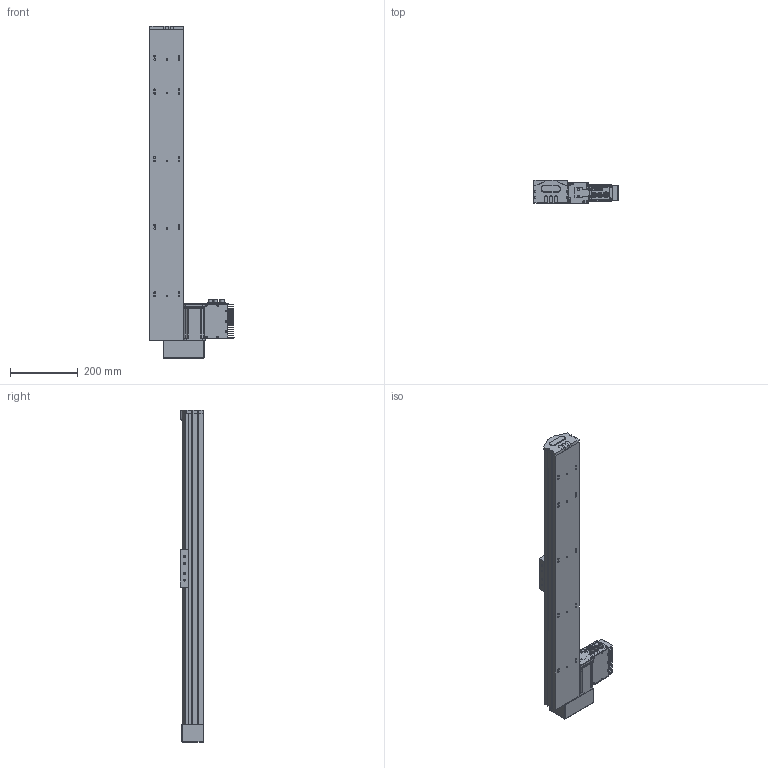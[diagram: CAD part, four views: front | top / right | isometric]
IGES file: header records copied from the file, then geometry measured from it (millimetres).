
Start section: SolidWorks IGES file using analytic representation for surfaces
Global section: file name: C:\Documents and Settings\1EDPI\Mes documents\yanize\S 10 TSH BR\S 10 TSH BR S700.IGS; native system: SolidWorks 2010; preprocessor: SolidWorks 2010; author: 1EDPI; date: 120904.143515; units: millimetre
Bounding box: 248.72 x 68.29 x 982 mm (x, y, z)
Surface area: 747690.4 mm2 (no closed solid volume)
Topology: 0 solids, 0 shells, 1989 faces, 26836 edges, 26804 vertices
Faces by surface type: revolution 1057, bspline 932
